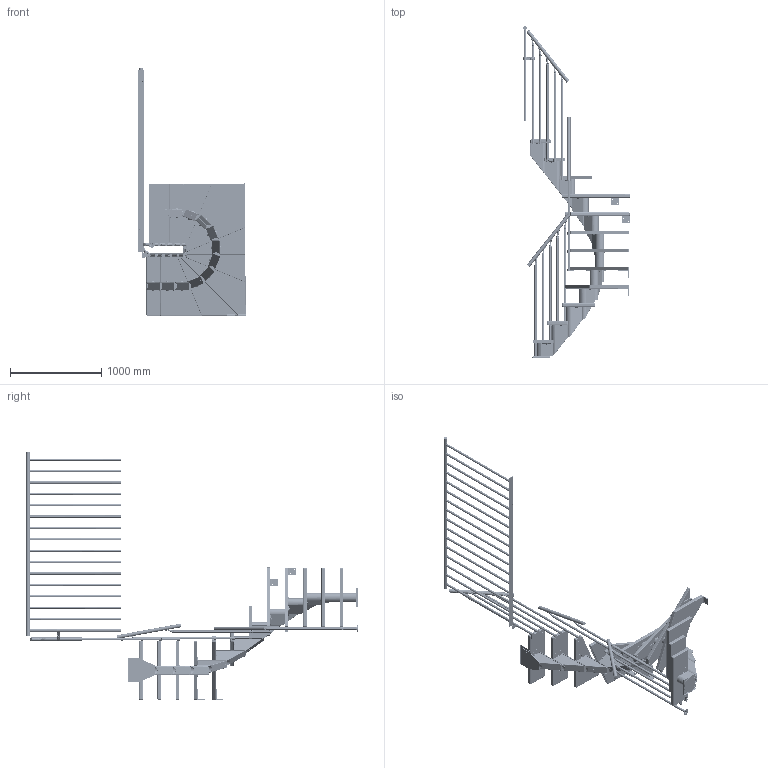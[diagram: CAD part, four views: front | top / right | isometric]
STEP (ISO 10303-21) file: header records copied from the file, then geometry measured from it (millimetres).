
FILE_DESCRIPTION (( 'STEP AP214' ), '1' );
FILE_NAME ('5494 - FRANKFURT ½-sving CLASSIC III gelænder.STEP', '2021-09-03T09:54:28', ( '' ), ( '' ), 'SwSTEP 2.0', 'SolidWorks 2019', '' );
FILE_SCHEMA (( 'AUTOMOTIVE_DESIGN' ));
Length unit declared in the file: millimetre
Products named in the file (131): K2-1077440_K2-1077442; K2-1077025_K2-1077027; K3-06027; K2-1077195_K2-1077197; K1-1077411; K1-1077150_K1-1077152; K1-1077655_K1-1077657; H2-20506; K1-1077660_K1-1077662; K1-40560; K2-1077425_K2-1077427; HÅNDLISTE^5083986; K3-02009_K3-02009; K1-01040; K3-04053_K3-04053; K1-1077045_K1-1077047; R1-63500_R1-63500; K3-10226; K1-1077675; 1078905; MIDTERBALUSTER^5083986; K1-1077400_K1-1077402; K2-1077610_K2-1077612; M2-1078309; K1-34021; K1-1077208; M2-1078301; 1077675-1_1077677; 5494 - FRANKFURT ½-sving CLASSIC III gelænder; 1077480-01_23; K3-03008_M8-ISO4034_Simpel; K1-1077070_K1-1077072; K2-1077430_K2-1077432; K1-1077155_K1-1077157; K3-05004_K3-05004; K2-1077675-1_K1-1077677; K1-40562_Default<As Machined>; K3-06022_K3-06022; K1-1077165_K1-1077167; K2-1077155_K2-1077157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
Assembly tree (287 placements, depth 5):
  5494 - FRANKFURT ½-sving CLASSIC III gelænder
    5083986
      1077480-01_23
        K2-1077420_K2-1077422
          K1-34031
          K1-34030
          K1-1077002
        K2-1077425_K2-1077427
          K1-34031
          K1-34030
        K2-1077425_K2-1077427
          K1-34031
          K1-34030
        K2-1077425_K2-1077427
          K1-34031
          K1-34030
        K2-1077425_K2-1077427
          K1-34031
          K1-34030
        K2-1077425_K2-1077427
          K1-34031
          K1-34030
        K2-1077425_K2-1077427
          K1-34031
          K1-34030
        K2-1077425_K2-1077427
          K1-34031
          K1-34030
        K2-1077425_K2-1077427
          K1-34031
          K1-34030
        K2-1077425_K2-1077427
          K1-34031
          K1-34030
        K2-1077425_K2-1077427
          K1-34031
          K1-34030
        K2-1077430_K2-1077432
          K1-34021
          K1-34020___
          K1-1077411
        K2-1077440_K2-1077442
          K1-34010
          K1-34011
        K1-1077400_K1-1077402
        K1-1077070_K1-1077072
        H2-20505
        H2-20506
        R1-63500_R1-63500
        K3-04053_K3-04053
      M2-1078300
      M2-1078309  x2
      M2-1078308  x2
      M2-1078307  x2
      M2-1078306  x2
      M2-1078301  x3
      K1-1077655_K1-1077657  x7
      K2-1077025_K2-1077027
        K1-40560
        K1-40561
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Bounding box: 1180.44 x 3642.16 x 2720 mm (x, y, z)
Volume: 93663703.6 mm3; surface area: 14375365.5 mm2
Topology: 239 solids, 239 shells, 7253 faces, 17416 edges, 10660 vertices
Faces by surface type: cylinder 2879, plane 2311, torus 660, cone 658, bspline 627, sphere 118
Entity records: 75546 total; most frequent: CARTESIAN_POINT 23622, DIRECTION 10514, ORIENTED_EDGE 9390, EDGE_CURVE 4695, AXIS2_PLACEMENT_3D 4236, VERTEX_POINT 2915, EDGE_LOOP 2184, LINE 2042
